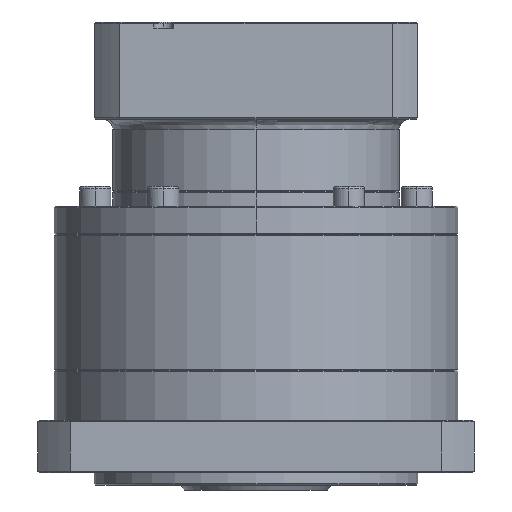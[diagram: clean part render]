
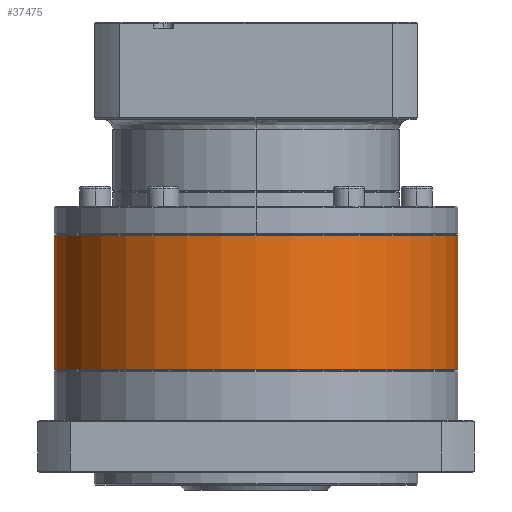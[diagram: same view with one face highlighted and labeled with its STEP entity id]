
A CAD part, front view. The second image highlights one B-rep face of the part: STEP entity #37475.
In plain terms, the highlighted cylindrical face has radius 81 mm (diameter 162 mm), a partial arc.
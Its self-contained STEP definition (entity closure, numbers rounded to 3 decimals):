
#79 = EDGE_CURVE ( 'NONE', #32308, #113381, #133191, .T. ) ;
#3519 = FACE_OUTER_BOUND ( 'NONE', #69820, .T. ) ;
#4935 = CIRCLE ( 'NONE', #35765, 81. ) ;
#6509 = DIRECTION ( 'NONE',  ( -1., 0., 0. ) ) ;
#8703 = CARTESIAN_POINT ( 'NONE',  ( -17.778, 102.107, -48.612 ) ) ;
#10846 = DIRECTION ( 'NONE',  ( 0., 0., 1. ) ) ;
#11483 = CIRCLE ( 'NONE', #133418, 81. ) ;
#12609 = DIRECTION ( 'NONE',  ( 0., 1., 0. ) ) ;
#14384 = ORIENTED_EDGE ( 'NONE', *, *, #106997, .F. ) ;
#30075 = DIRECTION ( 'NONE',  ( 0., 0., 1. ) ) ;
#32308 = VERTEX_POINT ( 'NONE', #43294 ) ;
#33681 = DIRECTION ( 'NONE',  ( 0., 0., 1. ) ) ;
#35765 = AXIS2_PLACEMENT_3D ( 'NONE', #65283, #10846, #77263 ) ;
#37475 = ADVANCED_FACE ( 'NONE', ( #3519 ), #123308, .T. ) ;
#39475 = CARTESIAN_POINT ( 'NONE',  ( -179.778, 102.107, -102.112 ) ) ;
#41103 = ORIENTED_EDGE ( 'NONE', *, *, #68971, .F. ) ;
#43269 = CIRCLE ( 'NONE', #99327, 81. ) ;
#43294 = CARTESIAN_POINT ( 'NONE',  ( -179.778, 102.107, -48.612 ) ) ;
#50186 = VERTEX_POINT ( 'NONE', #65143 ) ;
#54582 = VERTEX_POINT ( 'NONE', #8703 ) ;
#64504 = DIRECTION ( 'NONE',  ( 0., 0., -1. ) ) ;
#65143 = CARTESIAN_POINT ( 'NONE',  ( -98.778, 21.107, -48.612 ) ) ;
#65283 = CARTESIAN_POINT ( 'NONE',  ( -98.778, 102.107, -102.112 ) ) ;
#68971 = EDGE_CURVE ( 'NONE', #50186, #54582, #11483, .T. ) ;
#69820 = EDGE_LOOP ( 'NONE', ( #76498, #41103, #14384, #105404, #97089 ) ) ;
#71963 = DIRECTION ( 'NONE',  ( 0., 0., -1. ) ) ;
#73470 = CARTESIAN_POINT ( 'NONE',  ( -98.778, 102.107, -48.612 ) ) ;
#76498 = ORIENTED_EDGE ( 'NONE', *, *, #137414, .F. ) ;
#77263 = DIRECTION ( 'NONE',  ( -1., 0., 0. ) ) ;
#78019 = DIRECTION ( 'NONE',  ( 0., 1., 0. ) ) ;
#83906 = CARTESIAN_POINT ( 'NONE',  ( -98.778, 102.107, -48.112 ) ) ;
#87938 = AXIS2_PLACEMENT_3D ( 'NONE', #83906, #71963, #6509 ) ;
#88354 = EDGE_CURVE ( 'NONE', #113381, #114659, #4935, .T. ) ;
#89570 = CARTESIAN_POINT ( 'NONE',  ( -17.778, 102.107, -102.112 ) ) ;
#97089 = ORIENTED_EDGE ( 'NONE', *, *, #88354, .T. ) ;
#99327 = AXIS2_PLACEMENT_3D ( 'NONE', #111106, #33681, #78019 ) ;
#105404 = ORIENTED_EDGE ( 'NONE', *, *, #79, .T. ) ;
#105757 = VECTOR ( 'NONE', #64504, 1000. ) ;
#106997 = EDGE_CURVE ( 'NONE', #32308, #50186, #43269, .T. ) ;
#110768 = VECTOR ( 'NONE', #139002, 1000. ) ;
#111106 = CARTESIAN_POINT ( 'NONE',  ( -98.778, 102.107, -48.612 ) ) ;
#113381 = VERTEX_POINT ( 'NONE', #39475 ) ;
#114659 = VERTEX_POINT ( 'NONE', #89570 ) ;
#118350 = CARTESIAN_POINT ( 'NONE',  ( -17.778, 102.107, -48.112 ) ) ;
#123308 = CYLINDRICAL_SURFACE ( 'NONE', #87938, 81. ) ;
#130186 = CARTESIAN_POINT ( 'NONE',  ( -179.778, 102.107, -48.112 ) ) ;
#133191 = LINE ( 'NONE', #130186, #105757 ) ;
#133418 = AXIS2_PLACEMENT_3D ( 'NONE', #73470, #30075, #12609 ) ;
#137414 = EDGE_CURVE ( 'NONE', #54582, #114659, #138309, .T. ) ;
#138309 = LINE ( 'NONE', #118350, #110768 ) ;
#139002 = DIRECTION ( 'NONE',  ( 0., 0., -1. ) ) ;
